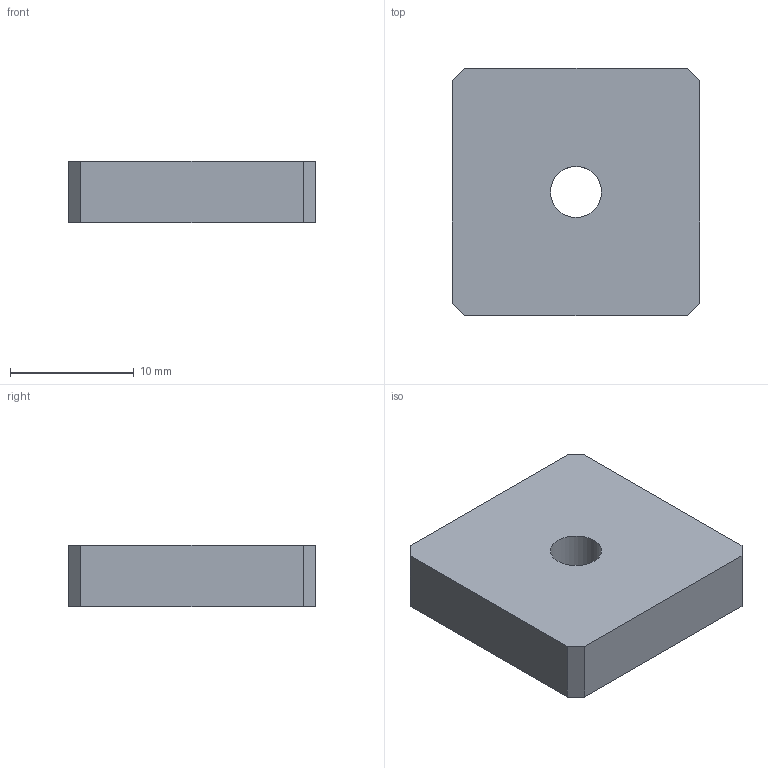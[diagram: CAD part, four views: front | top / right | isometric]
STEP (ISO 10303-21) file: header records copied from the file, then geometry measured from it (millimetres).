
FILE_DESCRIPTION((''),'2;1');
FILE_NAME('C:\Vault Klient\Projekt\Step\100-6010.stp','2009-12-10T09:46:41',('Mathias'),(''),'Autodesk Inventor 2010','Autodesk Inventor 2010','');
FILE_SCHEMA(('CONFIG_CONTROL_DESIGN'));
Length unit declared in the file: millimetre
Products named in the file (1): 100-6010
Bounding box: 20 x 20 x 5 mm (x, y, z)
Volume: 1922.9 mm3; surface area: 1222.4 mm2
Topology: 1 solids, 1 shells, 11 faces, 28 edges, 19 vertices
Faces by surface type: plane 10, bspline 1
Entity records: 361 total; most frequent: CARTESIAN_POINT 73, ORIENTED_EDGE 52, DIRECTION 50, EDGE_CURVE 26, VECTOR 24, LINE 24, VERTEX_POINT 18, EDGE_LOOP 14
